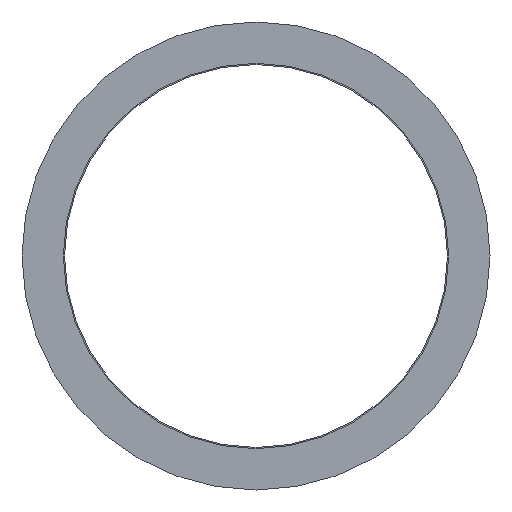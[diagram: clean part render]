
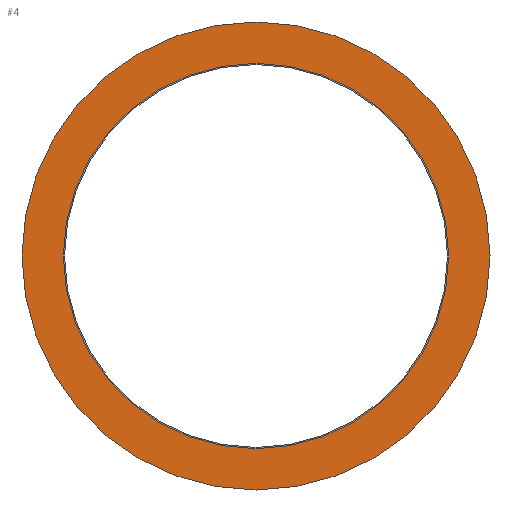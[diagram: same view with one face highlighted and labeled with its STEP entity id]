
A CAD part, left-side view. The second image highlights one B-rep face of the part: STEP entity #4.
In plain terms, the highlighted planar face has unit normal (-1, 0, 0).
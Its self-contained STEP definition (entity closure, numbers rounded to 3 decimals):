
#4 = ADVANCED_FACE ( 'NONE', ( #330, #259 ), #102, .T. ) ;
#6 = CIRCLE ( 'NONE', #314, 11. ) ;
#17 = EDGE_CURVE ( 'NONE', #305, #190, #179, .T. ) ;
#22 = CIRCLE ( 'NONE', #250, 9.055 ) ;
#23 = AXIS2_PLACEMENT_3D ( 'NONE', #36, #229, #389 ) ;
#36 = CARTESIAN_POINT ( 'NONE',  ( -3.161, -0.027, 0. ) ) ;
#54 = DIRECTION ( 'NONE',  ( 1., 0., 0. ) ) ;
#72 = EDGE_CURVE ( 'NONE', #376, #337, #22, .T. ) ;
#73 = DIRECTION ( 'NONE',  ( 0., 0., -1. ) ) ;
#94 = EDGE_LOOP ( 'NONE', ( #173, #126 ) ) ;
#95 = CARTESIAN_POINT ( 'NONE',  ( -3.161, -0.027, 0. ) ) ;
#102 = PLANE ( 'NONE',  #116 ) ;
#106 = DIRECTION ( 'NONE',  ( -1., 0., 0. ) ) ;
#116 = AXIS2_PLACEMENT_3D ( 'NONE', #344, #106, #272 ) ;
#126 = ORIENTED_EDGE ( 'NONE', *, *, #206, .F. ) ;
#135 = AXIS2_PLACEMENT_3D ( 'NONE', #95, #169, #73 ) ;
#136 = CARTESIAN_POINT ( 'NONE',  ( -3.161, -0.027, -9.055 ) ) ;
#143 = ORIENTED_EDGE ( 'NONE', *, *, #154, .T. ) ;
#154 = EDGE_CURVE ( 'NONE', #337, #376, #222, .T. ) ;
#169 = DIRECTION ( 'NONE',  ( 1., 0., 0. ) ) ;
#173 = ORIENTED_EDGE ( 'NONE', *, *, #17, .F. ) ;
#179 = CIRCLE ( 'NONE', #135, 11. ) ;
#180 = DIRECTION ( 'NONE',  ( 0., 0., -1. ) ) ;
#190 = VERTEX_POINT ( 'NONE', #302 ) ;
#203 = CARTESIAN_POINT ( 'NONE',  ( -3.161, -0.027, 0. ) ) ;
#206 = EDGE_CURVE ( 'NONE', #190, #305, #6, .T. ) ;
#222 = CIRCLE ( 'NONE', #23, 9.055 ) ;
#229 = DIRECTION ( 'NONE',  ( 1., 0., 0. ) ) ;
#243 = EDGE_LOOP ( 'NONE', ( #341, #143 ) ) ;
#250 = AXIS2_PLACEMENT_3D ( 'NONE', #402, #54, #270 ) ;
#259 = FACE_OUTER_BOUND ( 'NONE', #94, .T. ) ;
#270 = DIRECTION ( 'NONE',  ( 0., 0., -1. ) ) ;
#271 = DIRECTION ( 'NONE',  ( 1., 0., 0. ) ) ;
#272 = DIRECTION ( 'NONE',  ( 0., 0., 1. ) ) ;
#302 = CARTESIAN_POINT ( 'NONE',  ( -3.161, -0.027, 11. ) ) ;
#305 = VERTEX_POINT ( 'NONE', #313 ) ;
#313 = CARTESIAN_POINT ( 'NONE',  ( -3.161, -0.027, -11. ) ) ;
#314 = AXIS2_PLACEMENT_3D ( 'NONE', #203, #271, #180 ) ;
#330 = FACE_BOUND ( 'NONE', #243, .T. ) ;
#337 = VERTEX_POINT ( 'NONE', #338 ) ;
#338 = CARTESIAN_POINT ( 'NONE',  ( -3.161, -0.027, 9.055 ) ) ;
#341 = ORIENTED_EDGE ( 'NONE', *, *, #72, .T. ) ;
#344 = CARTESIAN_POINT ( 'NONE',  ( -3.161, -0.027, 0. ) ) ;
#376 = VERTEX_POINT ( 'NONE', #136 ) ;
#389 = DIRECTION ( 'NONE',  ( 0., 0., -1. ) ) ;
#402 = CARTESIAN_POINT ( 'NONE',  ( -3.161, -0.027, 0. ) ) ;
